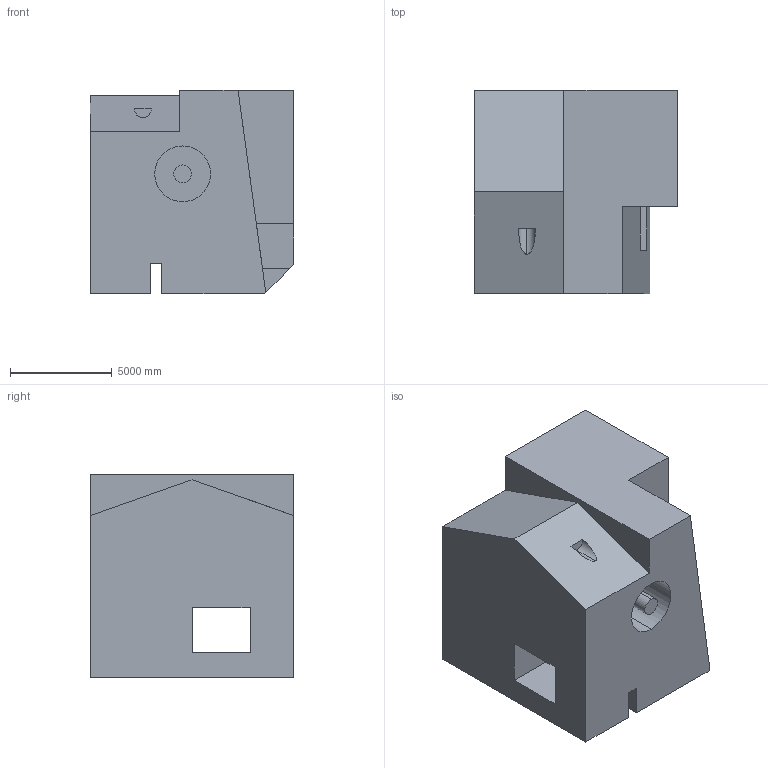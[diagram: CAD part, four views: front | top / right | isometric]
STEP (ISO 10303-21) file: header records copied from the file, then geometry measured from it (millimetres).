
FILE_DESCRIPTION (( 'STEP AP203' ), '1' );
FILE_NAME ('64.STEP', '2022-09-02T13:57:05', ( 'user' ), ( '' ), 'SwSTEP 2.0', 'SolidWorks 2021', '' );
FILE_SCHEMA (( 'CONFIG_CONTROL_DESIGN' ));
Length unit declared in the file: centimetre
Products named in the file (1): 64
Bounding box: 10000 x 10000 x 10000 mm (x, y, z)
Volume: 751716323382.1 mm3; surface area: 745582698.6 mm2
Topology: 1 solids, 1 shells, 32 faces, 90 edges, 60 vertices
Faces by surface type: plane 26, cylinder 6
Entity records: 1109 total; most frequent: CARTESIAN_POINT 189, ORIENTED_EDGE 180, DIRECTION 164, EDGE_CURVE 90, VECTOR 78, LINE 78, VERTEX_POINT 60, AXIS2_PLACEMENT_3D 43
